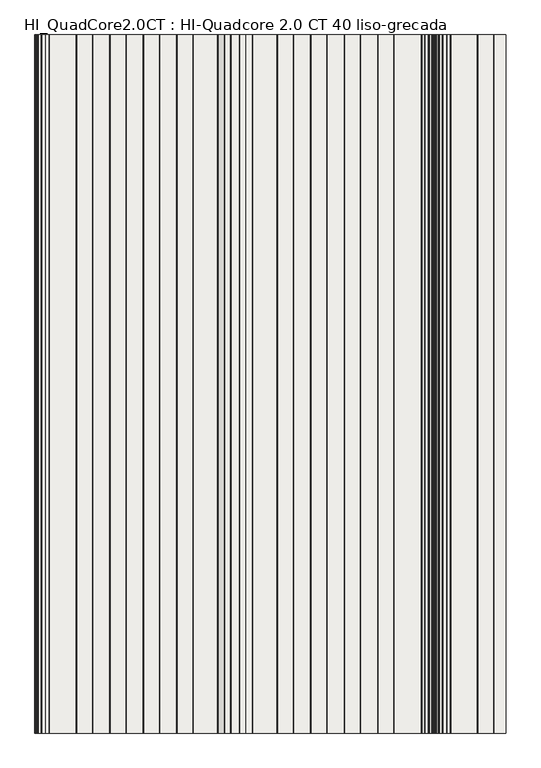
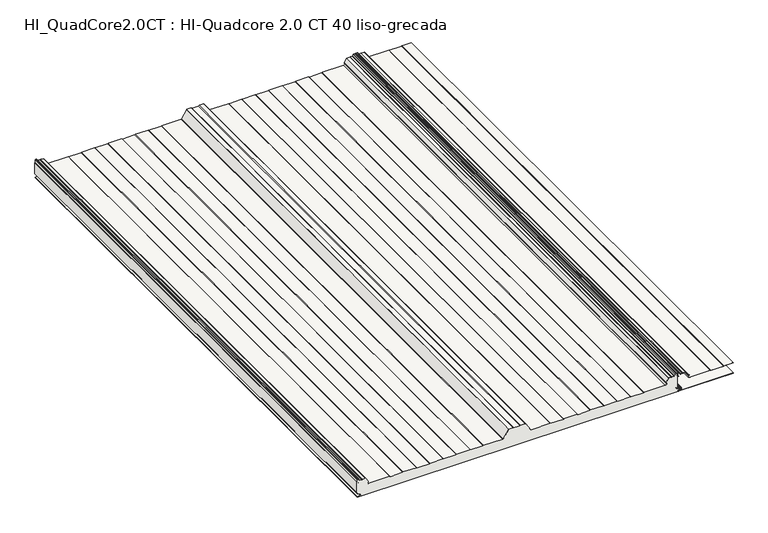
"""IFC4 building model written with IfcOpenShell, lengths in millimetres: slab geometry, HI_QuadCore2.0CT : HI-Quadcore 2.0 CT 40 liso-grecada."""

from ifc_helpers import new_model, si_unit, point, frame, frame_2d, origin, place, context, project, spatial, polyline, circle_curve, trimmed, segment, composite_curve, outline, extrude, source, transform, mapped, element, save
from ifc_brep_helpers import plane_surface, cylinder_surface, revolved_surface, advanced_brep


def hi_quadcore2_0ct_hi_quadcore_2_0_ct_40_liso_grecada_3cf4d14c(model_context):
    return source(origin(), model_context, "Body", "SolidModel", [
        advanced_brep(
        [(1155.1475465, 0.0, 55.7425833), (1151.3824194, 0.0, 57.9163804), (1150.0, 0.0, 57.9163804), (1150.0, 0.0, 16.239302), (1157.510215, 0.0, 16.239302), (1157.510215, 0.0, 15.4391074), (1153.6125693, 0.0, 15.4391074), (1152.4319301, 0.0, 14.2584682), (1153.4276302, 0.0, 13.0866965), (1161.8278581, 0.0, 11.7547343), (1161.7995989, 0.0, 4.4809044), (1151.8467032, 0.0, 2.9844289), (1152.0100062, 0.0, 0.8), (2297.9590685, 0.0, 0.8), (2299.3391392, 0.0, 2.1800708), (2302.5664905, 0.0, 5.8294074), (2310.7843221, 0.0, 6.8264698), (2310.7843299, 0.0, 9.4135286), (2300.8450446, 0.0, 10.6192254), (2297.8324398, 0.0, 14.0237344), (2297.2282701, 0.0, 15.44), (2292.7624398, 0.0, 15.44), (2292.7624398, 0.0, 16.239302), (2300.0, 0.0, 16.239302), (2300.0, 0.0, 57.9163804), (2298.8824194, 0.0, 57.9163804), (2295.1172924, 0.0, 55.7425833), (2294.7172924, 0.0, 56.4354036), (2298.5824194, 0.0, 58.6669358), (2298.5824194, 0.0, 68.1), (2297.4824194, 0.0, 69.2), (2293.8888221, 0.0, 69.2), (2292.8725546, 0.0, 68.5209518), (2291.0157992, 0.0, 64.0383476), (2288.8631598, 0.0, 62.6), (2282.1371875, 0.0, 62.6), (2280.4324194, 0.0, 61.8110374), (2278.7276514, 0.0, 62.6), (2269.4004541, 0.0, 62.6), (2268.4939153, 0.0, 62.1230469), (2259.1558806, 0.0, 48.5361221), (2259.356723, 0.0, 47.0692788), (2260.3070878, 0.0, 46.2744554), (2257.4852773, 0.0, 39.2), (2181.3816122, 0.0, 39.2), (2179.6495614, 0.0, 38.2), (2134.6152775, 0.0, 38.2), (2132.8832267, 0.0, 39.2), (2085.3816122, 0.0, 39.2), (2083.6495614, 0.0, 38.2), (2038.6152775, 0.0, 38.2), (2036.8832267, 0.0, 39.2), (1989.3816122, 0.0, 39.2), (1987.6495614, 0.0, 38.2), (1942.6152775, 0.0, 38.2), (1940.8832267, 0.0, 39.2), (1893.3816122, 0.0, 39.2), (1891.6495614, 0.0, 38.2), (1846.6152775, 0.0, 38.2), (1844.8832267, 0.0, 39.2), (1775.9029123, 0.0, 39.2), (1773.9344839, 0.0, 40.2833287), (1755.9445057, 0.0, 68.6885573), (1755.0152048, 0.0, 69.2), (1738.8816122, 0.0, 69.2), (1736.283536, 0.0, 67.7), (1713.9813029, 0.0, 67.7), (1711.3832267, 0.0, 69.2), (1695.2496341, 0.0, 69.2), (1694.3203331, 0.0, 68.6885573), (1676.330355, 0.0, 40.2833287), (1674.3619266, 0.0, 39.2), (1605.3816122, 0.0, 39.2), (1603.6495614, 0.0, 38.2), (1558.6152775, 0.0, 38.2), (1556.8832267, 0.0, 39.2), (1509.3816122, 0.0, 39.2), (1507.6495614, 0.0, 38.2), (1462.6152775, 0.0, 38.2), (1460.8832267, 0.0, 39.2), (1413.3816122, 0.0, 39.2), (1411.6495614, 0.0, 38.2), (1366.6152775, 0.0, 38.2), (1364.8832267, 0.0, 39.2), (1317.3816122, 0.0, 39.2), (1315.6495614, 0.0, 38.2), (1270.6152775, 0.0, 38.2), (1268.8832267, 0.0, 39.2), (1192.7795617, 0.0, 39.2), (1189.9577511, 0.0, 46.2744555), (1190.9081159, 0.0, 47.0692788), (1191.1089583, 0.0, 48.5361221), (1181.7709236, 0.0, 62.1230469), (1180.8643848, 0.0, 62.6), (1171.5371875, 0.0, 62.6), (1169.8324194, 0.0, 61.8110374), (1168.1276514, 0.0, 62.6), (1161.4016791, 0.0, 62.6), (1159.2490397, 0.0, 64.0383476), (1157.3922843, 0.0, 68.5209518), (1156.3760168, 0.0, 69.2), (1152.7824194, 0.0, 69.2), (1151.6824194, 0.0, 68.1), (1151.6824194, 0.0, 58.6669358), (1155.5475465, 0.0, 56.4354036), (1155.1475465, 2000.0, 55.7425833), (1155.5475465, 2000.0, 56.4354036), (1151.6824194, 2000.0, 58.6669358), (1151.6824194, 2000.0, 68.1), (1152.7824194, 2000.0, 69.2), (1156.3760168, 2000.0, 69.2), (1157.3922843, 2000.0, 68.5209518), (1159.2490397, 2000.0, 64.0383476), (1161.4016791, 2000.0, 62.6), (1168.1276514, 2000.0, 62.6), (1169.8324194, 2000.0, 61.8110374), (1171.5371875, 2000.0, 62.6), (1180.8643848, 2000.0, 62.6), (1181.7709236, 2000.0, 62.1230469), (1191.1089583, 2000.0, 48.5361221), (1190.9081159, 2000.0, 47.0692788), (1189.9577511, 2000.0, 46.2744555), (1192.7795617, 2000.0, 39.2), (1268.8832267, 2000.0, 39.2), (1270.6152775, 2000.0, 38.2), (1315.6495614, 2000.0, 38.2), (1317.3816122, 2000.0, 39.2), (1364.8832267, 2000.0, 39.2), (1366.6152775, 2000.0, 38.2), (1411.6495614, 2000.0, 38.2), (1413.3816122, 2000.0, 39.2), (1460.8832267, 2000.0, 39.2), (1462.6152775, 2000.0, 38.2), (1507.6495614, 2000.0, 38.2), (1509.3816122, 2000.0, 39.2), (1556.8832267, 2000.0, 39.2), (1558.6152775, 2000.0, 38.2), (1603.6495614, 2000.0, 38.2), (1605.3816122, 2000.0, 39.2), (1674.3619266, 2000.0, 39.2), (1676.330355, 2000.0, 40.2833287), (1694.3203331, 2000.0, 68.6885573), (1695.2496341, 2000.0, 69.2), (1711.3832267, 2000.0, 69.2), (1713.9813029, 2000.0, 67.7), (1736.283536, 2000.0, 67.7), (1738.8816122, 2000.0, 69.2), (1755.0152048, 2000.0, 69.2), (1755.9445057, 2000.0, 68.6885573), (1773.9344839, 2000.0, 40.2833287), (1775.9029123, 2000.0, 39.2), (1844.8832267, 2000.0, 39.2), (1846.6152775, 2000.0, 38.2), (1891.6495614, 2000.0, 38.2), (1893.3816122, 2000.0, 39.2), (1940.8832267, 2000.0, 39.2), (1942.6152775, 2000.0, 38.2), (1987.6495614, 2000.0, 38.2), (1989.3816122, 2000.0, 39.2), (2036.8832267, 2000.0, 39.2), (2038.6152775, 2000.0, 38.2), (2083.6495614, 2000.0, 38.2), (2085.3816122, 2000.0, 39.2), (2132.8832267, 2000.0, 39.2), (2134.6152775, 2000.0, 38.2), (2179.6495614, 2000.0, 38.2), (2181.3816122, 2000.0, 39.2), (2257.4852773, 2000.0, 39.2), (2260.3070878, 2000.0, 46.2744554), (2259.356723, 2000.0, 47.0692788), (2259.1558806, 2000.0, 48.5361221), (2268.4939153, 2000.0, 62.1230469), (2269.4004541, 2000.0, 62.6), (2278.7276514, 2000.0, 62.6), (2280.4324194, 2000.0, 61.8110374), (2282.1371875, 2000.0, 62.6), (2288.8631598, 2000.0, 62.6), (2291.0157992, 2000.0, 64.0383476), (2292.8725546, 2000.0, 68.5209518), (2293.8888221, 2000.0, 69.2), (2297.4824194, 2000.0, 69.2), (2298.5824194, 2000.0, 68.1), (2298.5824194, 2000.0, 58.6669358), (2294.7172924, 2000.0, 56.4354036), (2295.1172924, 2000.0, 55.7425833), (2298.8824194, 2000.0, 57.9163804), (2300.0, 2000.0, 57.9163804), (2300.0, 2000.0, 16.239302), (2292.7624398, 2000.0, 16.239302), (2292.7624398, 2000.0, 15.44), (2297.2282701, 2000.0, 15.44), (2297.8324398, 2000.0, 14.0237344), (2300.8450446, 2000.0, 10.6192254), (2310.7843299, 2000.0, 9.4135286), (2310.7843221, 2000.0, 6.8264698), (2302.5664905, 2000.0, 5.8294074), (2299.3391392, 2000.0, 2.1800708), (2297.9590685, 2000.0, 0.8), (1152.0100062, 2000.0, 0.8), (1151.8467032, 2000.0, 2.9844289), (1161.7995989, 2000.0, 4.4809044), (1161.8278581, 2000.0, 11.7547343), (1153.4273037, 2000.0, 13.0846342), (1152.4319301, 2000.0, 14.2584682), (1153.6125693, 2000.0, 15.4391074), (1157.510215, 2000.0, 15.4391074), (1157.510215, 2000.0, 16.239302), (1150.0, 2000.0, 16.239302), (1150.0, 2000.0, 57.9163804), (1151.3824194, 2000.0, 57.9163804)],
        [
            (0, 1),
            (1, 2),
            (2, 3),
            (3, 4),
            (4, 5),
            (5, 6),
            (6, 7, circle_curve(frame((1153.6125693, 0.0, 14.2584682), z_axis=(0.0, -1.0, 0.0), x_axis=(1.0, 0.0, 0.0)), 1.1806391)),
            (7, 8, circle_curve(frame((1153.6121809, 0.0, 14.2524448), z_axis=(0.0, -1.0, 0.0), x_axis=(1.0, 0.0, 0.0)), 1.1802661)),
            (8, 9),
            (9, 10, circle_curve(frame((1161.2524398, 0.0, 8.12), z_axis=(0.0, 1.0, 0.0), x_axis=(1.0, 0.0, 0.0)), 3.68)),
            (10, 11),
            (11, 12, circle_curve(frame((1152.0100062, 0.0, 1.8983185), z_axis=(0.0, -1.0, 0.0), x_axis=(1.0, 0.0, 0.0)), 1.0983185)),
            (12, 13),
            (13, 14, circle_curve(frame((2297.9590685, 0.0, 2.1800708), z_axis=(0.0, -1.0, 0.0), x_axis=(1.0, 0.0, 0.0)), 1.3800708)),
            (14, 15, circle_curve(frame((2303.0160638, 0.0, 2.1800708), z_axis=(0.0, 1.0, 0.0), x_axis=(1.0, 0.0, 0.0)), 3.6769246)),
            (15, 16),
            (16, 17, circle_curve(frame((2310.5224398, 0.0, 8.12), z_axis=(0.0, -1.0, 0.0), x_axis=(1.0, 0.0, 0.0)), 1.3197737)),
            (17, 18),
            (18, 19, circle_curve(frame((2301.2624398, 0.0, 14.0237344), z_axis=(0.0, 1.0, 0.0), x_axis=(1.0, 0.0, 0.0)), 3.43)),
            (19, 20, circle_curve(frame((2295.8703839, 0.0, 14.0237344), z_axis=(0.0, -1.0, 0.0), x_axis=(1.0, 0.0, 0.0)), 1.9620559)),
            (20, 21),
            (21, 22),
            (22, 23),
            (23, 24),
            (24, 25),
            (25, 26),
            (26, 27),
            (27, 28),
            (28, 29),
            (29, 30, circle_curve(frame((2297.4824194, 0.0, 68.1), z_axis=(0.0, -1.0, 0.0), x_axis=(1.0, 0.0, 0.0)), 1.1)),
            (30, 31),
            (31, 32, circle_curve(frame((2293.8888221, 0.0, 68.1), z_axis=(0.0, -1.0, 0.0), x_axis=(1.0, 0.0, 0.0)), 1.1)),
            (32, 33),
            (33, 34, circle_curve(frame((2288.8631598, 0.0, 64.93), z_axis=(0.0, 1.0, 0.0), x_axis=(1.0, 0.0, 0.0)), 2.33)),
            (34, 35),
            (35, 36),
            (36, 37),
            (37, 38),
            (38, 39, circle_curve(frame((2269.4004541, 0.0, 61.5), z_axis=(0.0, -1.0, 0.0), x_axis=(1.0, 0.0, 0.0)), 1.1)),
            (39, 40),
            (40, 41, circle_curve(frame((2260.0624194, 0.0, 47.9130753), z_axis=(0.0, -1.0, 0.0), x_axis=(1.0, 0.0, 0.0)), 1.1)),
            (41, 42),
            (42, 43, circle_curve(frame((2257.4852773, 0.0, 43.3), z_axis=(0.0, 1.0, 0.0), x_axis=(1.0, 0.0, 0.0)), 4.1)),
            (43, 44),
            (44, 45),
            (45, 46),
            (46, 47),
            (47, 48),
            (48, 49),
            (49, 50),
            (50, 51),
            (51, 52),
            (52, 53),
            (53, 54),
            (54, 55),
            (55, 56),
            (56, 57),
            (57, 58),
            (58, 59),
            (59, 60),
            (60, 61, circle_curve(frame((1775.9029123, 0.0, 41.53), z_axis=(0.0, 1.0, 0.0), x_axis=(1.0, 0.0, 0.0)), 2.33)),
            (61, 62),
            (62, 63, circle_curve(frame((1755.0152048, 0.0, 68.1), z_axis=(0.0, -1.0, 0.0), x_axis=(1.0, 0.0, 0.0)), 1.1)),
            (63, 64),
            (64, 65),
            (65, 66),
            (66, 67),
            (67, 68),
            (68, 69, circle_curve(frame((1695.2496341, 0.0, 68.1), z_axis=(0.0, -1.0, 0.0), x_axis=(1.0, 0.0, 0.0)), 1.1)),
            (69, 70),
            (70, 71, circle_curve(frame((1674.3619266, 0.0, 41.53), z_axis=(0.0, 1.0, 0.0), x_axis=(1.0, 0.0, 0.0)), 2.33)),
            (71, 72),
            (72, 73),
            (73, 74),
            (74, 75),
            (75, 76),
            (76, 77),
            (77, 78),
            (78, 79),
            (79, 80),
            (80, 81),
            (81, 82),
            (82, 83),
            (83, 84),
            (84, 85),
            (85, 86),
            (86, 87),
            (87, 88),
            (88, 89, circle_curve(frame((1192.7795617, 0.0, 43.3), z_axis=(0.0, 1.0, 0.0), x_axis=(1.0, 0.0, 0.0)), 4.1)),
            (89, 90),
            (90, 91, circle_curve(frame((1190.2024195, 0.0, 47.9130752), z_axis=(0.0, -1.0, 0.0), x_axis=(1.0, 0.0, 0.0)), 1.1)),
            (91, 92),
            (92, 93, circle_curve(frame((1180.8643848, 0.0, 61.5), z_axis=(0.0, -1.0, 0.0), x_axis=(1.0, 0.0, 0.0)), 1.1)),
            (93, 94),
            (94, 95),
            (95, 96),
            (96, 97),
            (97, 98, circle_curve(frame((1161.4016791, 0.0, 64.93), z_axis=(0.0, 1.0, 0.0), x_axis=(1.0, 0.0, 0.0)), 2.33)),
            (98, 99),
            (99, 100, circle_curve(frame((1156.3760168, 0.0, 68.1), z_axis=(0.0, -1.0, 0.0), x_axis=(1.0, 0.0, 0.0)), 1.1)),
            (100, 101),
            (101, 102, circle_curve(frame((1152.7824194, 0.0, 68.1), z_axis=(0.0, -1.0, 0.0), x_axis=(1.0, 0.0, 0.0)), 1.1)),
            (102, 103),
            (103, 104),
            (104, 0),
            (105, 106),
            (106, 107),
            (107, 108),
            (108, 109, circle_curve(frame((1152.7824194, 2000.0, 68.1), z_axis=(0.0, 1.0, 0.0), x_axis=(1.0, 0.0, 0.0)), 1.1)),
            (109, 110),
            (110, 111, circle_curve(frame((1156.3760168, 2000.0, 68.1), z_axis=(0.0, 1.0, 0.0), x_axis=(1.0, 0.0, 0.0)), 1.1)),
            (111, 112),
            (112, 113, circle_curve(frame((1161.4016791, 2000.0, 64.93), z_axis=(0.0, -1.0, 0.0), x_axis=(1.0, 0.0, 0.0)), 2.33)),
            (113, 114),
            (114, 115),
            (115, 116),
            (116, 117),
            (117, 118, circle_curve(frame((1180.8643848, 2000.0, 61.5), z_axis=(0.0, 1.0, 0.0), x_axis=(1.0, 0.0, 0.0)), 1.1)),
            (118, 119),
            (119, 120, circle_curve(frame((1190.2024195, 2000.0, 47.9130752), z_axis=(0.0, 1.0, 0.0), x_axis=(1.0, 0.0, 0.0)), 1.1)),
            (120, 121),
            (121, 122, circle_curve(frame((1192.7795617, 2000.0, 43.3), z_axis=(0.0, -1.0, 0.0), x_axis=(1.0, 0.0, 0.0)), 4.1)),
            (122, 123),
            (123, 124),
            (124, 125),
            (125, 126),
            (126, 127),
            (127, 128),
            (128, 129),
            (129, 130),
            (130, 131),
            (131, 132),
            (132, 133),
            (133, 134),
            (134, 135),
            (135, 136),
            (136, 137),
            (137, 138),
            (138, 139),
            (139, 140, circle_curve(frame((1674.3619266, 2000.0, 41.53), z_axis=(0.0, -1.0, 0.0), x_axis=(1.0, 0.0, 0.0)), 2.33)),
            (140, 141),
            (141, 142, circle_curve(frame((1695.2496341, 2000.0, 68.1), z_axis=(0.0, 1.0, 0.0), x_axis=(1.0, 0.0, 0.0)), 1.1)),
            (142, 143),
            (143, 144),
            (144, 145),
            (145, 146),
            (146, 147),
            (147, 148, circle_curve(frame((1755.0152048, 2000.0, 68.1), z_axis=(0.0, 1.0, 0.0), x_axis=(1.0, 0.0, 0.0)), 1.1)),
            (148, 149),
            (149, 150, circle_curve(frame((1775.9029123, 2000.0, 41.53), z_axis=(0.0, -1.0, 0.0), x_axis=(1.0, 0.0, 0.0)), 2.33)),
            (150, 151),
            (151, 152),
            (152, 153),
            (153, 154),
            (154, 155),
            (155, 156),
            (156, 157),
            (157, 158),
            (158, 159),
            (159, 160),
            (160, 161),
            (161, 162),
            (162, 163),
            (163, 164),
            (164, 165),
            (165, 166),
            (166, 167),
            (167, 168, circle_curve(frame((2257.4852773, 2000.0, 43.3), z_axis=(0.0, -1.0, 0.0), x_axis=(1.0, 0.0, 0.0)), 4.1)),
            (168, 169),
            (169, 170, circle_curve(frame((2260.0624194, 2000.0, 47.9130753), z_axis=(0.0, 1.0, 0.0), x_axis=(1.0, 0.0, 0.0)), 1.1)),
            (170, 171),
            (171, 172, circle_curve(frame((2269.4004541, 2000.0, 61.5), z_axis=(0.0, 1.0, 0.0), x_axis=(1.0, 0.0, 0.0)), 1.1)),
            (172, 173),
            (173, 174),
            (174, 175),
            (175, 176),
            (176, 177, circle_curve(frame((2288.8631598, 2000.0, 64.93), z_axis=(0.0, -1.0, 0.0), x_axis=(1.0, 0.0, 0.0)), 2.33)),
            (177, 178),
            (178, 179, circle_curve(frame((2293.8888221, 2000.0, 68.1), z_axis=(0.0, 1.0, 0.0), x_axis=(1.0, 0.0, 0.0)), 1.1)),
            (179, 180),
            (180, 181, circle_curve(frame((2297.4824194, 2000.0, 68.1), z_axis=(0.0, 1.0, 0.0), x_axis=(1.0, 0.0, 0.0)), 1.1)),
            (181, 182),
            (182, 183),
            (183, 184),
            (184, 185),
            (185, 186),
            (186, 187),
            (187, 188),
            (188, 189),
            (189, 190),
            (190, 191, circle_curve(frame((2295.8703839, 2000.0, 14.0237344), z_axis=(0.0, 1.0, 0.0), x_axis=(1.0, 0.0, 0.0)), 1.9620559)),
            (191, 192, circle_curve(frame((2301.2624398, 2000.0, 14.0237344), z_axis=(0.0, -1.0, 0.0), x_axis=(1.0, 0.0, 0.0)), 3.43)),
            (192, 193),
            (193, 194, circle_curve(frame((2310.5224398, 2000.0, 8.12), z_axis=(0.0, 1.0, 0.0), x_axis=(1.0, 0.0, 0.0)), 1.3197737)),
            (194, 195),
            (195, 196, circle_curve(frame((2303.0160638, 2000.0, 2.1800708), z_axis=(0.0, -1.0, 0.0), x_axis=(1.0, 0.0, 0.0)), 3.6769246)),
            (196, 197, circle_curve(frame((2297.9590685, 2000.0, 2.1800708), z_axis=(0.0, 1.0, 0.0), x_axis=(1.0, 0.0, 0.0)), 1.3800708)),
            (197, 198),
            (198, 199, circle_curve(frame((1152.0100062, 2000.0, 1.8983185), z_axis=(0.0, 1.0, 0.0), x_axis=(1.0, 0.0, 0.0)), 1.0983185)),
            (199, 200),
            (200, 201, circle_curve(frame((1161.2524398, 2000.0, 8.12), z_axis=(0.0, -1.0, 0.0), x_axis=(1.0, 0.0, 0.0)), 3.68)),
            (201, 202),
            (202, 203, circle_curve(frame((1153.6121809, 2000.0, 14.2524448), z_axis=(0.0, 1.0, 0.0), x_axis=(1.0, 0.0, 0.0)), 1.1802661)),
            (203, 204, circle_curve(frame((1153.6125693, 2000.0, 14.2584682), z_axis=(0.0, 1.0, 0.0), x_axis=(1.0, 0.0, 0.0)), 1.1806391)),
            (204, 205),
            (205, 206),
            (206, 207),
            (207, 208),
            (208, 209),
            (209, 105),
            (0, 105),
            (209, 1),
            (208, 2),
            (207, 3),
            (186, 24),
            (23, 187),
            (185, 25),
            (184, 26),
            (183, 27),
            (182, 28),
            (181, 29),
            (180, 30),
            (179, 31),
            (178, 32),
            (177, 33),
            (176, 34),
            (175, 35),
            (174, 36),
            (173, 37),
            (172, 38),
            (171, 39),
            (170, 40),
            (169, 41),
            (168, 42),
            (167, 43),
            (166, 44),
            (165, 45),
            (164, 46),
            (163, 47),
            (162, 48),
            (161, 49),
            (160, 50),
            (159, 51),
            (158, 52),
            (157, 53),
            (156, 54),
            (155, 55),
            (154, 56),
            (153, 57),
            (152, 58),
            (151, 59),
            (150, 60),
            (149, 61),
            (148, 62),
            (147, 63),
            (146, 64),
            (145, 65),
            (144, 66),
            (143, 67),
            (142, 68),
            (141, 69),
            (140, 70),
            (139, 71),
            (138, 72),
            (137, 73),
            (136, 74),
            (135, 75),
            (134, 76),
            (133, 77),
            (132, 78),
            (131, 79),
            (130, 80),
            (129, 81),
            (128, 82),
            (127, 83),
            (126, 84),
            (125, 85),
            (124, 86),
            (123, 87),
            (122, 88),
            (121, 89),
            (120, 90),
            (119, 91),
            (118, 92),
            (117, 93),
            (116, 94),
            (115, 95),
            (114, 96),
            (113, 97),
            (112, 98),
            (111, 99),
            (110, 100),
            (109, 101),
            (108, 102),
            (107, 103),
            (106, 104),
            (22, 188),
            (206, 4),
            (205, 5),
            (204, 6),
            (203, 7),
            (202, 8),
            (201, 9),
            (200, 10),
            (199, 11),
            (198, 12),
            (197, 13),
            (196, 14),
            (195, 15),
            (194, 16),
            (193, 17),
            (192, 18),
            (191, 19),
            (190, 20),
            (189, 21),
        ],
        [
            plane_surface(frame((1151.3824194, 0.0, 57.9163804), z_axis=(0.0, -1.0, 0.0), x_axis=(-0.866025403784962, 0.0, 0.4999999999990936))),
            plane_surface(frame((1151.3824194, 2000.0, 57.9163804), z_axis=(0.0, 1.0, 0.0), x_axis=(0.866025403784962, 0.0, -0.4999999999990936))),
            plane_surface(frame((1155.1475465, 0.0, 55.7425833), z_axis=(0.4999999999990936, 0.0, 0.866025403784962), x_axis=(0.0, 1.0, 0.0))),
            plane_surface(frame((1151.3824194, 0.0, 57.9163804), z_axis=(0.0, 0.0, 1.0), x_axis=(0.0, 1.0, 0.0))),
            plane_surface(frame((1150.0, 0.0, 57.9163804), z_axis=(-1.0, 0.0, 0.0), x_axis=(0.0, 1.0, 0.0))),
            plane_surface(frame((2300.0, 0.0, 30.0), z_axis=(1.0, 0.0, 0.0), x_axis=(0.0, 1.0, 0.0))),
            plane_surface(frame((2300.0, 0.0, 57.9163804), z_axis=(0.0, 0.0, 1.0), x_axis=(0.0, 1.0, 0.0))),
            plane_surface(frame((2298.8824194, 0.0, 57.9163804), z_axis=(-0.4999999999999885, 0.0, 0.8660254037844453), x_axis=(0.0, 1.0, 0.0))),
            plane_surface(frame((2295.1172924, 0.0, 55.7425833), z_axis=(0.8660254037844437, 0.0, 0.49999999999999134), x_axis=(0.0, 1.0, 0.0))),
            plane_surface(frame((2294.7172924, 0.0, 56.4354036), z_axis=(0.4999999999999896, 0.0, -0.8660254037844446), x_axis=(0.0, 1.0, 0.0))),
            plane_surface(frame((2298.5824194, 0.0, 58.6669358), z_axis=(1.0, 0.0, 0.0), x_axis=(0.0, 1.0, 0.0))),
            cylinder_surface(frame((2297.4824194, 2000.0, 68.1), z_axis=(0.0, -1.0, 0.0), x_axis=(1.0, 0.0, 0.0)), 1.1),
            plane_surface(frame((2297.4824194, 0.0, 69.2), z_axis=(0.0, 0.0, 1.0), x_axis=(0.0, 1.0, 0.0))),
            cylinder_surface(frame((2293.8888221, 2000.0, 68.1), z_axis=(0.0, -1.0, 0.0), x_axis=(1.0, 0.0, 0.0)), 1.1),
            plane_surface(frame((2292.8725546, 0.0, 68.5209518), z_axis=(-0.9238795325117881, 0.0, 0.38268343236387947), x_axis=(0.0, 1.0, 0.0))),
            revolved_surface(polyline([(2291.1931598, 2000.0, 64.93), (2291.1931598, 0.0, 64.93)]), (2288.8631598, 2000.0, 64.93), (0.0, 1.0, 0.0)),
            plane_surface(frame((2288.8631598, 0.0, 62.6), z_axis=(0.0, 0.0, 1.0), x_axis=(0.0, 1.0, 0.0))),
            plane_surface(frame((2282.1371875, 0.0, 62.6), z_axis=(-0.4199999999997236, 0.0, 0.9075241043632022), x_axis=(0.0, 1.0, 0.0))),
            plane_surface(frame((2280.4324194, 0.0, 61.8110374), z_axis=(0.42000000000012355, 0.0, 0.9075241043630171), x_axis=(0.0, 1.0, 0.0))),
            plane_surface(frame((2278.7276514, 0.0, 62.6), z_axis=(0.0, 0.0, 1.0), x_axis=(0.0, 1.0, 0.0))),
            cylinder_surface(frame((2269.4004541, 2000.0, 61.5), z_axis=(0.0, -1.0, 0.0), x_axis=(1.0, 0.0, 0.0)), 1.1),
            plane_surface(frame((2268.4939153, 0.0, 62.1230469), z_axis=(-0.824126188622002, 0.0, 0.5664062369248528), x_axis=(0.0, 1.0, 0.0))),
            cylinder_surface(frame((2260.0624194, 2000.0, 47.9130753), z_axis=(0.0, -1.0, 0.0), x_axis=(1.0, 0.0, 0.0)), 1.1),
            plane_surface(frame((2259.356723, 0.0, 47.0692788), z_axis=(-0.6415422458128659, 0.0, -0.7670877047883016), x_axis=(0.0, 1.0, 0.0))),
            revolved_surface(polyline([(2261.5852772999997, 2000.0, 43.3), (2261.5852772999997, 0.0, 43.3)]), (2257.4852773, 2000.0, 43.3), (0.0, 1.0, 0.0)),
            plane_surface(frame((2257.4852773, 0.0, 39.2), z_axis=(0.0, 0.0, 1.0), x_axis=(0.0, 1.0, 0.0))),
            plane_surface(frame((2181.3816122, 0.0, 39.2), z_axis=(-0.4999999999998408, 0.0, 0.8660254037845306), x_axis=(0.0, 1.0, 0.0))),
            plane_surface(frame((2179.6495614, 0.0, 38.2), z_axis=(0.0, 0.0, 1.0), x_axis=(0.0, 1.0, 0.0))),
            plane_surface(frame((2134.6152775, 0.0, 38.2), z_axis=(0.4999999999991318, 0.0, 0.86602540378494), x_axis=(0.0, 1.0, 0.0))),
            plane_surface(frame((2132.8832267, 0.0, 39.2), z_axis=(0.0, 0.0, 1.0), x_axis=(0.0, 1.0, 0.0))),
            plane_surface(frame((2085.3816122, 0.0, 39.2), z_axis=(-0.49999999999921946, 0.0, 0.8660254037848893), x_axis=(0.0, 1.0, 0.0))),
            plane_surface(frame((2083.6495614, 0.0, 38.2), z_axis=(0.0, 0.0, 1.0), x_axis=(0.0, 1.0, 0.0))),
            plane_surface(frame((2038.6152775, 0.0, 38.2), z_axis=(0.49999999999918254, 0.0, 0.8660254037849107), x_axis=(0.0, 1.0, 0.0))),
            plane_surface(frame((2036.8832267, 0.0, 39.2), z_axis=(0.0, 0.0, 1.0), x_axis=(0.0, 1.0, 0.0))),
            plane_surface(frame((1989.3816122, 0.0, 39.2), z_axis=(-0.4999999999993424, 0.0, 0.8660254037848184), x_axis=(0.0, 1.0, 0.0))),
            plane_surface(frame((1987.6495614, 0.0, 38.2), z_axis=(0.0, 0.0, 1.0), x_axis=(0.0, 1.0, 0.0))),
            plane_surface(frame((1942.6152775, 0.0, 38.2), z_axis=(0.4999999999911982, 0.0, 0.8660254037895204), x_axis=(0.0, 1.0, 0.0))),
            plane_surface(frame((1940.8832267, 0.0, 39.2), z_axis=(0.0, 0.0, 1.0), x_axis=(0.0, 1.0, 0.0))),
            plane_surface(frame((1893.3816122, 0.0, 39.2), z_axis=(-0.5000000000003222, 0.0, 0.8660254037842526), x_axis=(0.0, 1.0, 0.0))),
            plane_surface(frame((1891.6495614, 0.0, 38.2), z_axis=(0.0, 0.0, 1.0), x_axis=(0.0, 1.0, 0.0))),
            plane_surface(frame((1846.6152775, 0.0, 38.2), z_axis=(0.5000000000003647, 0.0, 0.8660254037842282), x_axis=(0.0, 1.0, 0.0))),
            plane_surface(frame((1844.8832267, 0.0, 39.2), z_axis=(0.0, 0.0, 1.0), x_axis=(0.0, 1.0, 0.0))),
            revolved_surface(polyline([(1778.2329123, 2000.0, 41.53), (1778.2329123, 0.0, 41.53)]), (1775.9029123, 2000.0, 41.53), (0.0, 1.0, 0.0)),
            plane_surface(frame((1773.9344839, 0.0, 40.2833287), z_axis=(0.8448190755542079, 0.0, 0.5350520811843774), x_axis=(0.0, 1.0, 0.0))),
            cylinder_surface(frame((1755.0152048, 2000.0, 68.1), z_axis=(0.0, -1.0, 0.0), x_axis=(1.0, 0.0, 0.0)), 1.1),
            plane_surface(frame((1755.0152048, 0.0, 69.2), z_axis=(0.0, 0.0, 1.0), x_axis=(0.0, 1.0, 0.0))),
            plane_surface(frame((1738.8816122, 0.0, 69.2), z_axis=(-0.4999999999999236, 0.0, 0.8660254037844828), x_axis=(0.0, 1.0, 0.0))),
            plane_surface(frame((1736.283536, 0.0, 67.7), z_axis=(0.0, 0.0, 1.0), x_axis=(0.0, 1.0, 0.0))),
            plane_surface(frame((1713.9813029, 0.0, 67.7), z_axis=(0.5000000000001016, 0.0, 0.86602540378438), x_axis=(0.0, 1.0, 0.0))),
            plane_surface(frame((1711.3832267, 0.0, 69.2), z_axis=(0.0, 0.0, 1.0), x_axis=(0.0, 1.0, 0.0))),
            cylinder_surface(frame((1695.2496341, 2000.0, 68.1), z_axis=(0.0, -1.0, 0.0), x_axis=(1.0, 0.0, 0.0)), 1.1),
            plane_surface(frame((1694.3203331, 0.0, 68.6885573), z_axis=(-0.8448190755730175, 0.0, 0.5350520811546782), x_axis=(0.0, 1.0, 0.0))),
            revolved_surface(polyline([(1676.6919266, 2000.0, 41.53), (1676.6919266, 0.0, 41.53)]), (1674.3619266, 2000.0, 41.53), (0.0, 1.0, 0.0)),
            plane_surface(frame((1674.3619266, 0.0, 39.2), z_axis=(0.0, 0.0, 1.0), x_axis=(0.0, 1.0, 0.0))),
            plane_surface(frame((1605.3816122, 0.0, 39.2), z_axis=(-0.5000000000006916, 0.0, 0.8660254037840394), x_axis=(0.0, 1.0, 0.0))),
            plane_surface(frame((1603.6495614, 0.0, 38.2), z_axis=(0.0, 0.0, 1.0), x_axis=(0.0, 1.0, 0.0))),
            plane_surface(frame((1558.6152775, 0.0, 38.2), z_axis=(0.49999999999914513, 0.0, 0.8660254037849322), x_axis=(0.0, 1.0, 0.0))),
            plane_surface(frame((1556.8832267, 0.0, 39.2), z_axis=(0.0, 0.0, 1.0), x_axis=(0.0, 1.0, 0.0))),
            plane_surface(frame((1509.3816122, 0.0, 39.2), z_axis=(-0.500000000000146, 0.0, 0.8660254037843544), x_axis=(0.0, 1.0, 0.0))),
            plane_surface(frame((1507.6495614, 0.0, 38.2), z_axis=(0.0, 0.0, 1.0), x_axis=(0.0, 1.0, 0.0))),
            plane_surface(frame((1462.6152775, 0.0, 38.2), z_axis=(0.49999999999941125, 0.0, 0.8660254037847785), x_axis=(0.0, 1.0, 0.0))),
            plane_surface(frame((1460.8832267, 0.0, 39.2), z_axis=(0.0, 0.0, 1.0), x_axis=(0.0, 1.0, 0.0))),
            plane_surface(frame((1413.3816122, 0.0, 39.2), z_axis=(-0.4999999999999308, 0.0, 0.8660254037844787), x_axis=(0.0, 1.0, 0.0))),
            plane_surface(frame((1411.6495614, 0.0, 38.2), z_axis=(0.0, 0.0, 1.0), x_axis=(0.0, 1.0, 0.0))),
            plane_surface(frame((1366.6152775, 0.0, 38.2), z_axis=(0.49999999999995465, 0.0, 0.8660254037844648), x_axis=(0.0, 1.0, 0.0))),
            plane_surface(frame((1364.8832267, 0.0, 39.2), z_axis=(0.0, 0.0, 1.0), x_axis=(0.0, 1.0, 0.0))),
            plane_surface(frame((1317.3816122, 0.0, 39.2), z_axis=(-0.5000000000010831, 0.0, 0.8660254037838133), x_axis=(0.0, 1.0, 0.0))),
            plane_surface(frame((1315.6495614, 0.0, 38.2), z_axis=(0.0, 0.0, 1.0), x_axis=(0.0, 1.0, 0.0))),
            plane_surface(frame((1270.6152775, 0.0, 38.2), z_axis=(0.4999999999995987, 0.0, 0.8660254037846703), x_axis=(0.0, 1.0, 0.0))),
            plane_surface(frame((1268.8832267, 0.0, 39.2), z_axis=(0.0, 0.0, 1.0), x_axis=(0.0, 1.0, 0.0))),
            revolved_surface(polyline([(1196.8795616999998, 2000.0, 43.3), (1196.8795616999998, 0.0, 43.3)]), (1192.7795617, 2000.0, 43.3), (0.0, 1.0, 0.0)),
            plane_surface(frame((1189.9577511, 0.0, 46.2744555), z_axis=(0.6415422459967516, 0.0, -0.7670877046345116), x_axis=(0.0, 1.0, 0.0))),
            cylinder_surface(frame((1190.2024195, 2000.0, 47.9130752), z_axis=(0.0, -1.0, 0.0), x_axis=(1.0, 0.0, 0.0)), 1.1),
            plane_surface(frame((1191.1089583, 0.0, 48.5361221), z_axis=(0.8241261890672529, 0.0, 0.5664062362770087), x_axis=(0.0, 1.0, 0.0))),
            cylinder_surface(frame((1180.8643848, 2000.0, 61.5), z_axis=(0.0, -1.0, 0.0), x_axis=(1.0, 0.0, 0.0)), 1.1),
            plane_surface(frame((1180.8643848, 0.0, 62.6), z_axis=(0.0, 0.0, 1.0), x_axis=(0.0, 1.0, 0.0))),
            plane_surface(frame((1171.5371875, 0.0, 62.6), z_axis=(-0.4199999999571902, 0.0, 0.9075241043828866), x_axis=(0.0, 1.0, 0.0))),
            plane_surface(frame((1169.8324194, 0.0, 61.8110374), z_axis=(0.4200000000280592, 0.0, 0.9075241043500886), x_axis=(0.0, 1.0, 0.0))),
            plane_surface(frame((1168.1276514, 0.0, 62.6), z_axis=(0.0, 0.0, 1.0), x_axis=(0.0, 1.0, 0.0))),
            revolved_surface(polyline([(1163.7316790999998, 2000.0, 64.93), (1163.7316790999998, 0.0, 64.93)]), (1161.4016791, 2000.0, 64.93), (0.0, 1.0, 0.0)),
            plane_surface(frame((1159.2490397, 0.0, 64.0383476), z_axis=(0.9238795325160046, 0.0, 0.3826834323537), x_axis=(0.0, 1.0, 0.0))),
            cylinder_surface(frame((1156.3760168, 2000.0, 68.1), z_axis=(0.0, -1.0, 0.0), x_axis=(1.0, 0.0, 0.0)), 1.1),
            plane_surface(frame((1156.3760168, 0.0, 69.2), z_axis=(0.0, 0.0, 1.0), x_axis=(0.0, 1.0, 0.0))),
            cylinder_surface(frame((1152.7824194, 2000.0, 68.1), z_axis=(0.0, -1.0, 0.0), x_axis=(1.0, 0.0, 0.0)), 1.1),
            plane_surface(frame((1151.6824194, 0.0, 68.1), z_axis=(-1.0, 0.0, 0.0), x_axis=(0.0, 1.0, 0.0))),
            plane_surface(frame((1151.6824194, 0.0, 58.6669358), z_axis=(-0.49999999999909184, 0.0, -0.866025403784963), x_axis=(0.0, 1.0, 0.0))),
            plane_surface(frame((1155.5475465, 0.0, 56.4354036), z_axis=(-0.866025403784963, 0.0, 0.4999999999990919), x_axis=(0.0, 1.0, 0.0))),
            plane_surface(frame((1150.0, 0.0, 16.239302), z_axis=(0.0, 0.0, -1.0), x_axis=(0.0, 1.0, 0.0))),
            plane_surface(frame((1157.510215, 0.0, 16.239302), z_axis=(-1.0, 0.0, 0.0), x_axis=(0.0, 1.0, 0.0))),
            plane_surface(frame((1157.510215, 0.0, 15.4391074), z_axis=(0.0, 0.0, 1.0), x_axis=(0.0, 1.0, 0.0))),
            cylinder_surface(frame((1153.6125693, 2000.0, 14.2584682), z_axis=(0.0, -1.0, 0.0), x_axis=(1.0, 0.0, 0.0)), 1.1806391),
            cylinder_surface(frame((1153.6121809, 2000.0, 14.2524448), z_axis=(0.0, -1.0, 0.0), x_axis=(1.0, 0.0, 0.0)), 1.1802661),
            plane_surface(frame((1153.4273037, 0.0, 13.0846342), z_axis=(-0.1563636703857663, 0.0, -0.9876995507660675), x_axis=(0.0, 1.0, 0.0))),
            revolved_surface(polyline([(1164.9324398, 2000.0, 8.12), (1164.9324398, 0.0, 8.12)]), (1161.2524398, 2000.0, 8.12), (0.0, 1.0, 0.0)),
            plane_surface(frame((1161.7995989, 0.0, 4.4809044), z_axis=(-0.14868453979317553, 0.0, 0.9888846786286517), x_axis=(0.0, 1.0, 0.0))),
            cylinder_surface(frame((1152.0100062, 2000.0, 1.8983185), z_axis=(0.0, -1.0, 0.0), x_axis=(1.0, 0.0, 0.0)), 1.0983185),
            plane_surface(frame((1152.0100062, 0.0, 0.8), z_axis=(0.0, 0.0, -1.0), x_axis=(0.0, 1.0, 0.0))),
            cylinder_surface(frame((2297.9590685, 2000.0, 2.1800708), z_axis=(0.0, -1.0, 0.0), x_axis=(1.0, 0.0, 0.0)), 1.3800708),
            revolved_surface(polyline([(2306.6929884, 2000.0, 2.1800708), (2306.6929884, 0.0, 2.1800708)]), (2303.0160638, 2000.0, 2.1800708), (0.0, 1.0, 0.0)),
            plane_surface(frame((2302.5664905, 0.0, 5.8294074), z_axis=(0.12044584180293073, 0.0, -0.9927198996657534), x_axis=(0.0, 1.0, 0.0))),
            cylinder_surface(frame((2310.5224398, 2000.0, 8.12), z_axis=(0.0, -1.0, 0.0), x_axis=(1.0, 0.0, 0.0)), 1.3197737),
            plane_surface(frame((2310.7843299, 0.0, 9.4135286), z_axis=(0.12042339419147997, 0.0, 0.9927226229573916), x_axis=(0.0, 1.0, 0.0))),
            revolved_surface(polyline([(2304.6924397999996, 2000.0, 14.0237344), (2304.6924397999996, 0.0, 14.0237344)]), (2301.2624398, 2000.0, 14.0237344), (0.0, 1.0, 0.0)),
            cylinder_surface(frame((2295.8703839, 2000.0, 14.0237344), z_axis=(0.0, -1.0, 0.0), x_axis=(1.0, 0.0, 0.0)), 1.9620559),
            plane_surface(frame((2297.2282701, 0.0, 15.44), z_axis=(0.0, 0.0, 1.0), x_axis=(0.0, 1.0, 0.0))),
            plane_surface(frame((2292.7624398, 0.0, 15.44), z_axis=(1.0, 0.0, 0.0), x_axis=(0.0, 1.0, 0.0))),
        ],
        [
            (0, [[1, 2, 3, 4, 5, 6, 7, 8, 9, 10, 11, 12, 13, 14, 15, 16, 17, 18, 19, 20, 21, 22, 23, 24, 25, 26, 27, 28, 29, 30, 31, 32, 33, 34, 35, 36, 37, 38, 39, 40, 41, 42, 43, 44, 45, 46, 47, 48, 49, 50, 51, 52, 53, 54, 55, 56, 57, 58, 59, 60, 61, 62, 63, 64, 65, 66, 67, 68, 69, 70, 71, 72, 73, 74, 75, 76, 77, 78, 79, 80, 81, 82, 83, 84, 85, 86, 87, 88, 89, 90, 91, 92, 93, 94, 95, 96, 97, 98, 99, 100, 101, 102, 103, 104, 105]]),
            (1, [[106, 107, 108, 109, 110, 111, 112, 113, 114, 115, 116, 117, 118, 119, 120, 121, 122, 123, 124, 125, 126, 127, 128, 129, 130, 131, 132, 133, 134, 135, 136, 137, 138, 139, 140, 141, 142, 143, 144, 145, 146, 147, 148, 149, 150, 151, 152, 153, 154, 155, 156, 157, 158, 159, 160, 161, 162, 163, 164, 165, 166, 167, 168, 169, 170, 171, 172, 173, 174, 175, 176, 177, 178, 179, 180, 181, 182, 183, 184, 185, 186, 187, 188, 189, 190, 191, 192, 193, 194, 195, 196, 197, 198, 199, 200, 201, 202, 203, 204, 205, 206, 207, 208, 209, 210]]),
            (2, [[-1, 211, -210, 212]]),
            (3, [[-2, -212, -209, 213]]),
            (4, [[-213, -208, 214, -3]]),
            (5, [[215, -24, 216, -187]]),
            (6, [[-25, -215, -186, 217]]),
            (7, [[-26, -217, -185, 218]]),
            (8, [[-27, -218, -184, 219]]),
            (9, [[-28, -219, -183, 220]]),
            (10, [[-29, -220, -182, 221]]),
            (11, [[-30, -221, -181, 222]]),
            (12, [[-31, -222, -180, 223]]),
            (13, [[-32, -223, -179, 224]]),
            (14, [[-33, -224, -178, 225]]),
            (15, [[-34, -225, -177, 226]]),
            (16, [[-35, -226, -176, 227]]),
            (17, [[-36, -227, -175, 228]]),
            (18, [[-37, -228, -174, 229]]),
            (19, [[-38, -229, -173, 230]]),
            (20, [[-39, -230, -172, 231]]),
            (21, [[-40, -231, -171, 232]]),
            (22, [[-41, -232, -170, 233]]),
            (23, [[-42, -233, -169, 234]]),
            (24, [[-43, -234, -168, 235]]),
            (25, [[-44, -235, -167, 236]]),
            (26, [[-45, -236, -166, 237]]),
            (27, [[-46, -237, -165, 238]]),
            (28, [[-47, -238, -164, 239]]),
            (29, [[-48, -239, -163, 240]]),
            (30, [[-49, -240, -162, 241]]),
            (31, [[-50, -241, -161, 242]]),
            (32, [[-51, -242, -160, 243]]),
            (33, [[-52, -243, -159, 244]]),
            (34, [[-53, -244, -158, 245]]),
            (35, [[-54, -245, -157, 246]]),
            (36, [[-55, -246, -156, 247]]),
            (37, [[-56, -247, -155, 248]]),
            (38, [[-57, -248, -154, 249]]),
            (39, [[-58, -249, -153, 250]]),
            (40, [[-59, -250, -152, 251]]),
            (41, [[-60, -251, -151, 252]]),
            (42, [[-61, -252, -150, 253]]),
            (43, [[-62, -253, -149, 254]]),
            (44, [[-63, -254, -148, 255]]),
            (45, [[-64, -255, -147, 256]]),
            (46, [[-65, -256, -146, 257]]),
            (47, [[-66, -257, -145, 258]]),
            (48, [[-67, -258, -144, 259]]),
            (49, [[-68, -259, -143, 260]]),
            (50, [[-69, -260, -142, 261]]),
            (51, [[-70, -261, -141, 262]]),
            (52, [[-71, -262, -140, 263]]),
            (53, [[-72, -263, -139, 264]]),
            (54, [[-73, -264, -138, 265]]),
            (55, [[-74, -265, -137, 266]]),
            (56, [[-75, -266, -136, 267]]),
            (57, [[-76, -267, -135, 268]]),
            (58, [[-77, -268, -134, 269]]),
            (59, [[-78, -269, -133, 270]]),
            (60, [[-79, -270, -132, 271]]),
            (61, [[-80, -271, -131, 272]]),
            (62, [[-81, -272, -130, 273]]),
            (63, [[-82, -273, -129, 274]]),
            (64, [[-83, -274, -128, 275]]),
            (65, [[-84, -275, -127, 276]]),
            (66, [[-85, -276, -126, 277]]),
            (67, [[-86, -277, -125, 278]]),
            (68, [[-87, -278, -124, 279]]),
            (69, [[-88, -279, -123, 280]]),
            (70, [[-89, -280, -122, 281]]),
            (71, [[-90, -281, -121, 282]]),
            (72, [[-91, -282, -120, 283]]),
            (73, [[-92, -283, -119, 284]]),
            (74, [[-93, -284, -118, 285]]),
            (75, [[-94, -285, -117, 286]]),
            (76, [[-95, -286, -116, 287]]),
            (77, [[-96, -287, -115, 288]]),
            (78, [[-97, -288, -114, 289]]),
            (79, [[-98, -289, -113, 290]]),
            (80, [[-99, -290, -112, 291]]),
            (81, [[-100, -291, -111, 292]]),
            (82, [[-101, -292, -110, 293]]),
            (83, [[-102, -293, -109, 294]]),
            (84, [[-103, -294, -108, 295]]),
            (85, [[-104, -295, -107, 296]]),
            (86, [[-105, -296, -106, -211]]),
            (87, [[-216, -23, 297, -188]]),
            (87, [[-214, -207, 298, -4]]),
            (88, [[-5, -298, -206, 299]]),
            (89, [[-6, -299, -205, 300]]),
            (90, [[-7, -300, -204, 301]]),
            (91, [[-8, -301, -203, 302]]),
            (92, [[-9, -302, -202, 303]]),
            (93, [[-10, -303, -201, 304]]),
            (94, [[-11, -304, -200, 305]]),
            (95, [[-12, -305, -199, 306]]),
            (96, [[-13, -306, -198, 307]]),
            (97, [[-14, -307, -197, 308]]),
            (98, [[-15, -308, -196, 309]]),
            (99, [[-16, -309, -195, 310]]),
            (100, [[-17, -310, -194, 311]]),
            (101, [[-18, -311, -193, 312]]),
            (102, [[-19, -312, -192, 313]]),
            (103, [[-20, -313, -191, 314]]),
            (104, [[-21, -314, -190, 315]]),
            (105, [[-22, -315, -189, -297]]),
        ],
    ),
        advanced_brep(
        [(2303.6125412, 0.0, 16.239302), (2301.6320413, 0.0, 14.2588021), (2303.3026044, 0.0, 12.2960661), (2311.7027672, 0.0, 10.9645747), (2311.6806488, 0.0, 5.2720118), (2301.7277556, 0.0, 3.7755366), (2302.0100062, 0.0, 0.0), (2500.0, 0.0, 0.0), (2500.0, 0.0, 0.8), (2302.0100062, 0.0, 0.8), (2301.8467032, 0.0, 2.9844289), (2311.7995989, 0.0, 4.4809044), (2311.8278581, 0.0, 11.7547343), (2303.4279307, 0.0, 13.084535), (2302.4319301, 0.0, 14.2584682), (2303.6125693, 0.0, 15.4391074), (2307.510215, 0.0, 15.4391074), (2307.510215, 0.0, 16.239302), (2303.6125412, 2000.0, 16.239302), (2307.510215, 2000.0, 16.239302), (2307.510215, 2000.0, 15.4391074), (2303.6125693, 2000.0, 15.4391074), (2302.4319301, 2000.0, 14.2584682), (2303.4276302, 2000.0, 13.0866965), (2311.8278581, 2000.0, 11.7547343), (2311.7995989, 2000.0, 4.4809044), (2301.8467032, 2000.0, 2.9844289), (2302.0100062, 2000.0, 0.8), (2500.0, 2000.0, 0.8), (2500.0, 2000.0, 0.0), (2302.0100062, 2000.0, 0.0), (2301.7277556, 2000.0, 3.7755366), (2311.6806488, 2000.0, 5.2720118), (2311.7027672, 2000.0, 10.9645747), (2303.3028397, 2000.0, 12.2943753), (2301.6320413, 2000.0, 14.2588021)],
        [
            (0, 1, circle_curve(frame((2303.6125412, 0.0, 14.2588021), z_axis=(0.0, -1.0, 0.0), x_axis=(1.0, 0.0, 0.0)), 1.9804999)),
            (1, 2, circle_curve(frame((2303.612237, 0.0, 14.2519163), z_axis=(0.0, -1.0, 0.0), x_axis=(1.0, 0.0, 0.0)), 1.9802076)),
            (2, 3),
            (3, 4, circle_curve(frame((2311.2524398, 0.0, 8.12), z_axis=(0.0, 1.0, 0.0), x_axis=(1.0, 0.0, 0.0)), 2.88)),
            (4, 5),
            (5, 6, circle_curve(frame((2302.0100062, 0.0, 1.8983185), z_axis=(0.0, -1.0, 0.0), x_axis=(1.0, 0.0, 0.0)), 1.8983185)),
            (6, 7),
            (7, 8),
            (8, 9),
            (9, 10, circle_curve(frame((2302.0100062, 0.0, 1.8983185), z_axis=(0.0, 1.0, 0.0), x_axis=(1.0, 0.0, 0.0)), 1.0983185)),
            (10, 11),
            (11, 12, circle_curve(frame((2311.2524398, 0.0, 8.12), z_axis=(0.0, -1.0, 0.0), x_axis=(1.0, 0.0, 0.0)), 3.68)),
            (12, 13),
            (13, 14, circle_curve(frame((2303.6121809, 0.0, 14.2524448), z_axis=(0.0, 1.0, 0.0), x_axis=(1.0, 0.0, 0.0)), 1.1802661)),
            (14, 15, circle_curve(frame((2303.6125693, 0.0, 14.2584682), z_axis=(0.0, 1.0, 0.0), x_axis=(1.0, 0.0, 0.0)), 1.1806391)),
            (15, 16),
            (16, 17),
            (17, 0),
            (18, 19),
            (19, 20),
            (20, 21),
            (21, 22, circle_curve(frame((2303.6125693, 2000.0, 14.2584682), z_axis=(0.0, -1.0, 0.0), x_axis=(1.0, 0.0, 0.0)), 1.1806391)),
            (22, 23, circle_curve(frame((2303.6121809, 2000.0, 14.2524448), z_axis=(0.0, -1.0, 0.0), x_axis=(1.0, 0.0, 0.0)), 1.1802661)),
            (23, 24),
            (24, 25, circle_curve(frame((2311.2524398, 2000.0, 8.12), z_axis=(0.0, 1.0, 0.0), x_axis=(1.0, 0.0, 0.0)), 3.68)),
            (25, 26),
            (26, 27, circle_curve(frame((2302.0100062, 2000.0, 1.8983185), z_axis=(0.0, -1.0, 0.0), x_axis=(1.0, 0.0, 0.0)), 1.0983185)),
            (27, 28),
            (28, 29),
            (29, 30),
            (30, 31, circle_curve(frame((2302.0100062, 2000.0, 1.8983185), z_axis=(0.0, 1.0, 0.0), x_axis=(1.0, 0.0, 0.0)), 1.8983185)),
            (31, 32),
            (32, 33, circle_curve(frame((2311.2524398, 2000.0, 8.12), z_axis=(0.0, -1.0, 0.0), x_axis=(1.0, 0.0, 0.0)), 2.88)),
            (33, 34),
            (34, 35, circle_curve(frame((2303.612237, 2000.0, 14.2519163), z_axis=(0.0, 1.0, 0.0), x_axis=(1.0, 0.0, 0.0)), 1.9802076)),
            (35, 18, circle_curve(frame((2303.6125412, 2000.0, 14.2588021), z_axis=(0.0, 1.0, 0.0), x_axis=(1.0, 0.0, 0.0)), 1.9804999)),
            (0, 18),
            (35, 1),
            (34, 2),
            (33, 3),
            (32, 4),
            (31, 5),
            (30, 6),
            (29, 7),
            (27, 9),
            (8, 28),
            (26, 10),
            (25, 11),
            (24, 12),
            (23, 13),
            (22, 14),
            (21, 15),
            (20, 16),
            (19, 17),
        ],
        [
            plane_surface(frame((2305.5930411, 0.0, 14.2588021), z_axis=(0.0, -1.0, 0.0), x_axis=(0.0, 0.0, 1.0))),
            plane_surface(frame((2305.5930411, 2000.0, 14.2588021), z_axis=(0.0, 1.0, 0.0), x_axis=(0.0, 0.0, -1.0))),
            cylinder_surface(frame((2303.6125412, 2000.0, 14.2588021), z_axis=(0.0, -1.0, 0.0), x_axis=(1.0, 0.0, 0.0)), 1.9804999),
            cylinder_surface(frame((2303.612237, 2000.0, 14.2519163), z_axis=(0.0, -1.0, 0.0), x_axis=(1.0, 0.0, 0.0)), 1.9802076),
            plane_surface(frame((2303.3028397, 0.0, 12.2943753), z_axis=(-0.15636367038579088, 0.0, -0.9876995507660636), x_axis=(0.0, 1.0, 0.0))),
            revolved_surface(polyline([(2314.1324398, 2000.0, 8.12), (2314.1324398, 0.0, 8.12)]), (2311.2524398, 2000.0, 8.12), (0.0, 1.0, 0.0)),
            plane_surface(frame((2311.6806488, 0.0, 5.2720118), z_axis=(-0.14868453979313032, 0.0, 0.9888846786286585), x_axis=(0.0, 1.0, 0.0))),
            cylinder_surface(frame((2302.0100062, 2000.0, 1.8983185), z_axis=(0.0, -1.0, 0.0), x_axis=(1.0, 0.0, 0.0)), 1.8983185),
            plane_surface(frame((2302.0100062, 0.0, 0.0), z_axis=(0.0, 0.0, -1.0), x_axis=(0.0, 1.0, 0.0))),
            plane_surface(frame((3450.0, 0.0, 0.8), z_axis=(0.0, 0.0, 1.0), x_axis=(0.0, 1.0, 0.0))),
            revolved_surface(polyline([(2303.1083247, 2000.0, 1.8983185), (2303.1083247, 0.0, 1.8983185)]), (2302.0100062, 2000.0, 1.8983185), (0.0, 1.0, 0.0)),
            plane_surface(frame((2301.8467032, 0.0, 2.9844289), z_axis=(0.14868453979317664, 0.0, -0.9888846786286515), x_axis=(0.0, 1.0, 0.0))),
            cylinder_surface(frame((2311.2524398, 2000.0, 8.12), z_axis=(0.0, -1.0, 0.0), x_axis=(1.0, 0.0, 0.0)), 3.68),
            plane_surface(frame((2311.8278581, 0.0, 11.7547343), z_axis=(0.15636367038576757, 0.0, 0.9876995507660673), x_axis=(0.0, 1.0, 0.0))),
            revolved_surface(polyline([(2304.7924470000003, 2000.0, 14.2524448), (2304.7924470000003, 0.0, 14.2524448)]), (2303.6121809, 2000.0, 14.2524448), (0.0, 1.0, 0.0)),
            revolved_surface(polyline([(2304.7932084, 2000.0, 14.2584682), (2304.7932084, 0.0, 14.2584682)]), (2303.6125693, 2000.0, 14.2584682), (0.0, 1.0, 0.0)),
            plane_surface(frame((2303.6125693, 0.0, 15.4391074), z_axis=(0.0, 0.0, -1.0), x_axis=(0.0, 1.0, 0.0))),
            plane_surface(frame((2307.510215, 0.0, 15.4391074), z_axis=(1.0, 0.0, 0.0), x_axis=(0.0, 1.0, 0.0))),
            plane_surface(frame((2307.510215, 0.0, 16.239302), z_axis=(0.0, 0.0, 1.0), x_axis=(0.0, 1.0, 0.0))),
            plane_surface(frame((2500.0, 0.0, 27.9692099), z_axis=(1.0, 0.0, 0.0), x_axis=(0.0, 1.0, 0.0))),
        ],
        [
            (0, [[1, 2, 3, 4, 5, 6, 7, 8, 9, 10, 11, 12, 13, 14, 15, 16, 17, 18]]),
            (1, [[19, 20, 21, 22, 23, 24, 25, 26, 27, 28, 29, 30, 31, 32, 33, 34, 35, 36]]),
            (2, [[-1, 37, -36, 38]]),
            (3, [[-2, -38, -35, 39]]),
            (4, [[-3, -39, -34, 40]]),
            (5, [[-4, -40, -33, 41]]),
            (6, [[-5, -41, -32, 42]]),
            (7, [[-6, -42, -31, 43]]),
            (8, [[-43, -30, 44, -7]]),
            (9, [[45, -9, 46, -28]]),
            (10, [[-10, -45, -27, 47]]),
            (11, [[-11, -47, -26, 48]]),
            (12, [[-12, -48, -25, 49]]),
            (13, [[-13, -49, -24, 50]]),
            (14, [[-14, -50, -23, 51]]),
            (15, [[-15, -51, -22, 52]]),
            (16, [[-16, -52, -21, 53]]),
            (17, [[-17, -53, -20, 54]]),
            (18, [[-18, -54, -19, -37]]),
            (19, [[-8, -44, -29, -46]]),
        ],
    ),
        extrude(outline(composite_curve([segment(polyline([(57.9163804, 2301.3824194), (55.7425833, 2305.1475465), (56.4354036, 2305.5475465), (58.6669358, 2301.6824194), (68.1, 2301.6824194)]), True, "CONTINUOUS"), segment(trimmed(circle_curve(frame_2d((68.1, 2302.7824194)), 1.1), [point((68.1, 2301.6824194))], [point((69.2, 2302.7824194))], True, "CARTESIAN"), True, "CONTINUOUS"), segment(polyline([(69.2, 2302.7824194), (69.2, 2306.3760168)]), True, "CONTINUOUS"), segment(trimmed(circle_curve(frame_2d((68.1, 2306.3760168)), 1.1), [point((69.2, 2306.3760168))], [point((68.5209518, 2307.3922843))], True, "CARTESIAN"), True, "CONTINUOUS"), segment(polyline([(68.5209518, 2307.3922843), (64.0383476, 2309.2490397)]), True, "CONTINUOUS"), segment(trimmed(circle_curve(frame_2d((64.93, 2311.4016791)), 2.33), [point((64.0383476, 2309.2490397))], [point((62.6, 2311.4016791))], False, "CARTESIAN"), True, "CONTINUOUS"), segment(polyline([(62.6, 2311.4016791), (62.6, 2318.1276514), (61.8110374, 2319.8324194), (62.6, 2321.5371875), (62.6, 2330.8643848)]), True, "CONTINUOUS"), segment(trimmed(circle_curve(frame_2d((61.5, 2330.8643848)), 1.1), [point((62.6, 2330.8643848))], [point((62.1230469, 2331.7709236))], True, "CARTESIAN"), True, "CONTINUOUS"), segment(polyline([(62.1230469, 2331.7709236), (48.5361221, 2341.1089583)]), True, "CONTINUOUS"), segment(trimmed(circle_curve(frame_2d((47.9130752, 2340.2024195)), 1.1), [point((48.5361221, 2341.1089583))], [point((47.0692788, 2340.9081159))], True, "CARTESIAN"), True, "CONTINUOUS"), segment(polyline([(47.0692788, 2340.9081159), (46.2744555, 2339.9577511)]), True, "CONTINUOUS"), segment(trimmed(circle_curve(frame_2d((43.3, 2342.7795617)), 4.1), [point((46.2744555, 2339.9577511))], [point((39.2, 2342.7795617))], False, "CARTESIAN"), True, "CONTINUOUS"), segment(polyline([(39.2, 2342.7795617), (39.2, 2418.8832267), (38.2, 2420.6152775), (38.2, 2465.6495614), (39.2, 2467.3816122), (39.2, 2500.0), (40.0, 2500.0), (40.0, 2467.5691766)]), True, "CONTINUOUS"), segment(trimmed(circle_curve(frame_2d((38.5, 2467.5691766)), 1.5), [point((40.0, 2467.5691766))], [point((39.7990381, 2466.8191766))], False, "CARTESIAN"), True, "CONTINUOUS"), segment(polyline([(39.7990381, 2466.8191766), (39.0, 2465.435202), (39.0, 2420.8296369), (39.7990381, 2419.4456623)]), True, "CONTINUOUS"), segment(trimmed(circle_curve(frame_2d((38.5, 2418.6956623)), 1.5), [point((39.7990381, 2419.4456623))], [point((40.0, 2418.6956623))], False, "CARTESIAN"), True, "CONTINUOUS"), segment(polyline([(40.0, 2418.6956623), (40.0, 2342.7795617)]), True, "CONTINUOUS"), segment(trimmed(circle_curve(frame_2d((43.3, 2342.7795617)), 3.3), [point((40.0, 2342.7795617))], [point((45.6777166, 2340.4912296))], True, "CARTESIAN"), True, "CONTINUOUS"), segment(polyline([(45.6777166, 2340.4912296), (46.4556086, 2341.4213497)]), True, "CONTINUOUS"), segment(trimmed(circle_curve(frame_2d((47.9130752, 2340.2024195)), 1.9), [point((46.4556086, 2341.4213497))], [point((48.9892471, 2341.7682592))], False, "CARTESIAN"), True, "CONTINUOUS"), segment(polyline([(48.9892471, 2341.7682592), (62.5761719, 2332.4302246)]), True, "CONTINUOUS"), segment(trimmed(circle_curve(frame_2d((61.5, 2330.8643848)), 1.9), [point((62.5761719, 2332.4302246))], [point((63.4, 2330.8643848))], False, "CARTESIAN"), True, "CONTINUOUS"), segment(polyline([(63.4, 2330.8643848), (63.4, 2321.3610429), (62.6925567, 2319.8324194), (63.4, 2318.303796), (63.4, 2311.4016791)]), True, "CONTINUOUS"), segment(trimmed(circle_curve(frame_2d((64.93, 2311.4016791)), 1.53), [point((63.4, 2311.4016791))], [point((64.3444944, 2309.9881434))], True, "CARTESIAN"), True, "CONTINUOUS"), segment(polyline([(64.3444944, 2309.9881434), (68.8270985, 2308.1313879)]), True, "CONTINUOUS"), segment(trimmed(circle_curve(frame_2d((68.1, 2306.3760168)), 1.9), [point((68.8270985, 2308.1313879))], [point((70.0, 2306.3760168))], False, "CARTESIAN"), True, "CONTINUOUS"), segment(polyline([(70.0, 2306.3760168), (70.0, 2302.7824194)]), True, "CONTINUOUS"), segment(trimmed(circle_curve(frame_2d((68.1, 2302.7824194)), 1.9), [point((70.0, 2302.7824194))], [point((68.1, 2300.8824194))], False, "CARTESIAN"), True, "CONTINUOUS"), segment(polyline([(68.1, 2300.8824194), (58.7824058, 2300.8824194)]), True, "CONTINUOUS"), segment(trimmed(circle_curve(frame_2d((58.7824058, 2301.8824194)), 1.0), [point((58.7824058, 2300.8824194))], [point((57.9163804, 2301.3824194))], False, "CARTESIAN"), True, "CONTINUOUS")], self_intersect=False)), frame((0.0, 0.0, 0.0), z_axis=(0.0, 1.0, 0.0), x_axis=(0.0, 0.0, 1.0)), (0.0, 0.0, 1.0), 2000.0),
    ])


if __name__ == "__main__":
    model = new_model("IFC4")
    model_context = context("Model", 3, world=origin())
    ifc_project = project(units=[si_unit("LENGTHUNIT", "METRE", prefix="MILLI")], contexts=[model_context])
    site = spatial("IfcSite", under=ifc_project)
    building = spatial("IfcBuilding", under=site)
    placement = place(None, origin())
    hi_quadcore2_0ct_hi_quadcore_2_0_ct_40_liso_grecada_shape = hi_quadcore2_0ct_hi_quadcore_2_0_ct_40_liso_grecada_3cf4d14c(model_context)
    element("IfcSlab", 1, ObjectType="HI_QuadCore2.0CT : HI-Quadcore 2.0 CT 40 liso-grecada", at=placement, inside=building, context=model_context, shape_type="MappedRepresentation", body=[
        mapped(hi_quadcore2_0ct_hi_quadcore_2_0_ct_40_liso_grecada_shape, transform((0.0, 0.0, 0.0), x_axis=(1.0, 0.0, 0.0), y_axis=(0.0, 1.0, 0.0), z_axis=(0.0, 0.0, 1.0))),
    ])
    save(model, "model.ifc")
